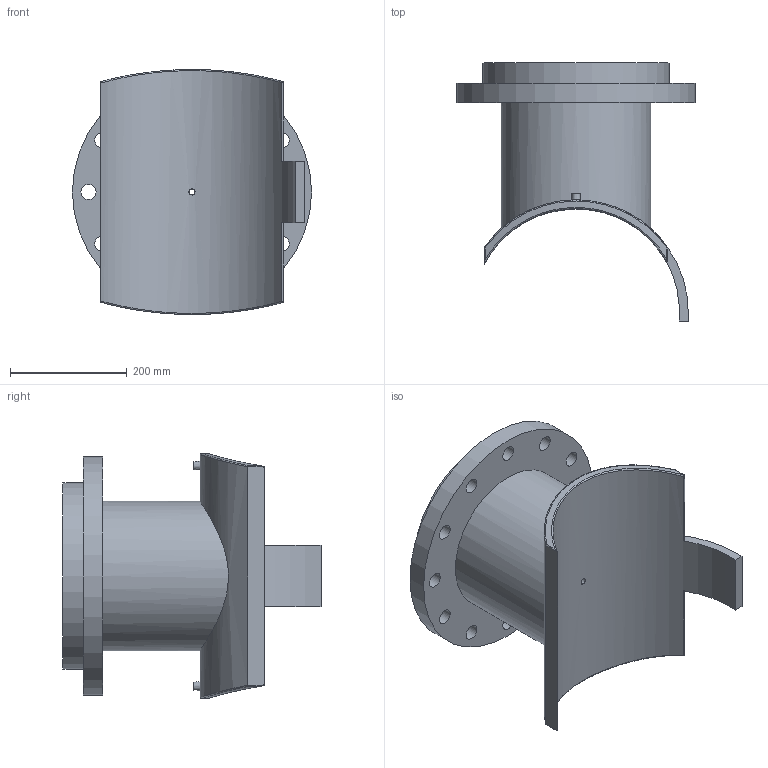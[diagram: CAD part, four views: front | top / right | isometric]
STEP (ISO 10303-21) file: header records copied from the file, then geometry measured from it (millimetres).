
FILE_DESCRIPTION(/* description */ ('PLASSON FLANGED BRANCH SADDLE 315-355x250'),/* implementation_level */ '2;1');
FILE_NAME(/* name */ 'C:\Dropbox\KIMPROJECTS-Inventor 2019\99-16-3568-Processing\ElectroFusion Fittings\495904_495903\stp\495903355250T.stp',/* time_stamp */ '2024-04-03T21:03:26+02:00',/* author */ ('KIM'),/* organization */ (''),/* preprocessor_version */ 'ST-DEVELOPER v17.2',/* originating_system */ 'Autodesk Inventor 2019',/* authorisation */ '');
FILE_SCHEMA (('AUTOMOTIVE_DESIGN { 1 0 10303 214 3 1 1 }'));
Length unit declared in the file: millimetre
Products named in the file (1): 495903355250T
Bounding box: 410 x 442.5 x 419.98 mm (x, y, z)
Volume: 10716564.7 mm3; surface area: 947144 mm2
Topology: 1 solids, 1 shells, 63 faces, 166 edges, 128 vertices
Faces by surface type: cylinder 36, plane 17, sphere 4, bspline 4, cone 2
Full cylindrical faces by diameter (mm): 4 x2, 10 x2, 10.4 x1, 16 x1, 26 x12, 204 x1, 256 x1, 320 x1, 410 x1
Entity records: 2699 total; most frequent: CARTESIAN_POINT 1042, DIRECTION 332, ORIENTED_EDGE 304, EDGE_CURVE 152, AXIS2_PLACEMENT_3D 140, VERTEX_POINT 102, EDGE_LOOP 100, CIRCLE 80
